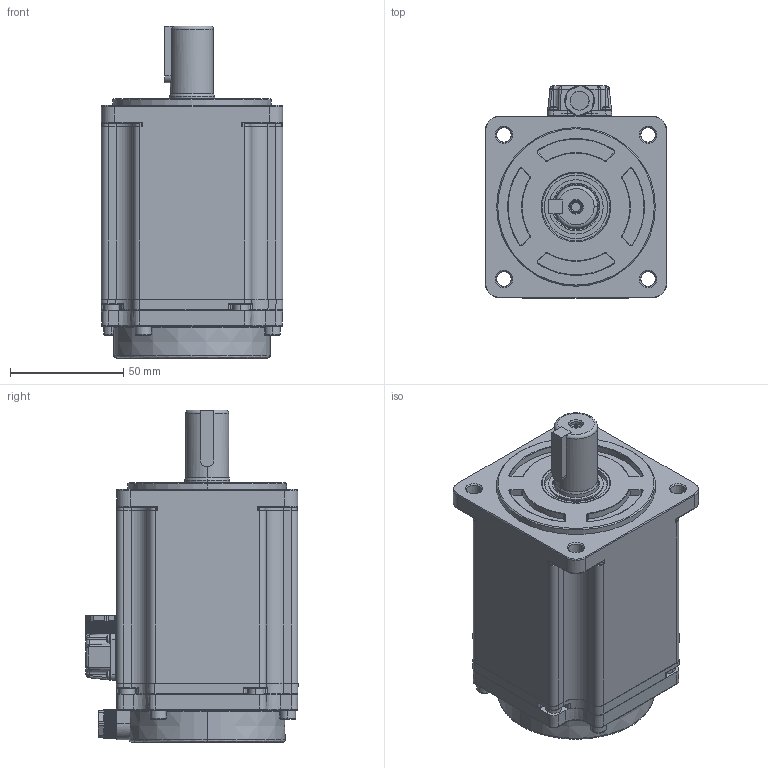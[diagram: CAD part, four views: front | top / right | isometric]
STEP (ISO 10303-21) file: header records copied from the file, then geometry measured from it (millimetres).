
FILE_DESCRIPTION (( 'STEP AP203' ), '1' );
FILE_NAME ('G3系列80ST-1000W标准电机三维图.STEP', '2022-04-14T04:43:38', ( '微软用户' ), ( '微软中国' ), 'SwSTEP 2.0', 'SolidWorks 2016', '' );
FILE_SCHEMA (( 'CONFIG_CONTROL_DESIGN' ));
Products named in the file (1): G3系列80ST-1000W标准电机三维图
Bounding box: 80.19 x 93.6 x 146.5 mm (x, y, z)
Volume: 232554.5 mm3; surface area: 124846.1 mm2
Topology: 21 solids, 21 shells, 3140 faces, 7613 edges, 4613 vertices
Faces by surface type: plane 1661, cylinder 586, cone 542, bspline 167, torus 138, sphere 46
Entity records: 95970 total; most frequent: CARTESIAN_POINT 22439, DIRECTION 15761, ORIENTED_EDGE 15194, EDGE_CURVE 7597, AXIS2_PLACEMENT_3D 5700, VERTEX_POINT 4613, LINE 4361, VECTOR 4361
